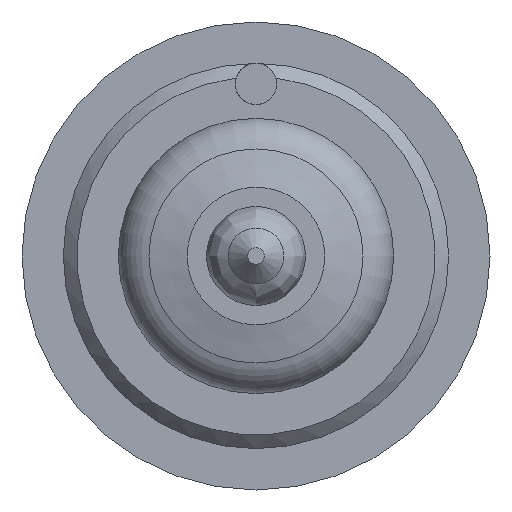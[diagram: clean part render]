
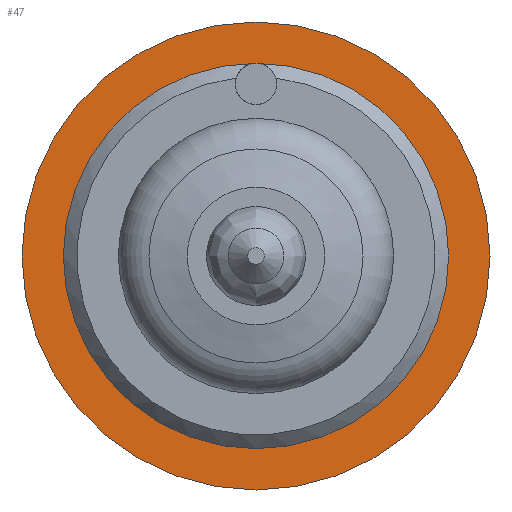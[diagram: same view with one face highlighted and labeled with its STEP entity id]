
A CAD part, front view. The second image highlights one B-rep face of the part: STEP entity #47.
In plain terms, the highlighted planar face has unit normal (0, -1, 0).
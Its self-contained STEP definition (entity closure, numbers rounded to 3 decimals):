
#47=ADVANCED_FACE('',(#102,#103),#104,.F.);
#102=FACE_BOUND('',#172,.T.);
#103=FACE_OUTER_BOUND('',#173,.T.);
#104=PLANE('',#174);
#172=EDGE_LOOP('',(#283));
#173=EDGE_LOOP('',(#284));
#174=AXIS2_PLACEMENT_3D('',#285,#286,#287);
#283=ORIENTED_EDGE('',*,*,#377,.F.);
#284=ORIENTED_EDGE('',*,*,#378,.T.);
#285=CARTESIAN_POINT('',(17.,-15.,0.0));
#286=DIRECTION('',(0.0,1.0,0.0));
#287=DIRECTION('',(0.0,0.0,1.0));
#377=EDGE_CURVE('',#416,#416,#421,.T.);
#378=EDGE_CURVE('',#422,#422,#423,.T.);
#416=VERTEX_POINT('',#472);
#421=CIRCLE('',#499,14.);
#422=VERTEX_POINT('',#500);
#423=CIRCLE('',#501,17.);
#472=CARTESIAN_POINT('',(0.,-15.,14.0));
#499=AXIS2_PLACEMENT_3D('',#550,#551,#552);
#500=CARTESIAN_POINT('',(0.0,-15.,-17.));
#501=AXIS2_PLACEMENT_3D('',#553,#554,#555);
#550=CARTESIAN_POINT('',(0.0,-15.,0.0));
#551=DIRECTION('',(0.0,-1.0,0.0));
#552=DIRECTION('',(0.0,0.0,-1.0));
#553=CARTESIAN_POINT('',(0.0,-15.,0.0));
#554=DIRECTION('',(0.0,-1.0,0.0));
#555=DIRECTION('',(0.0,0.0,-1.0));
